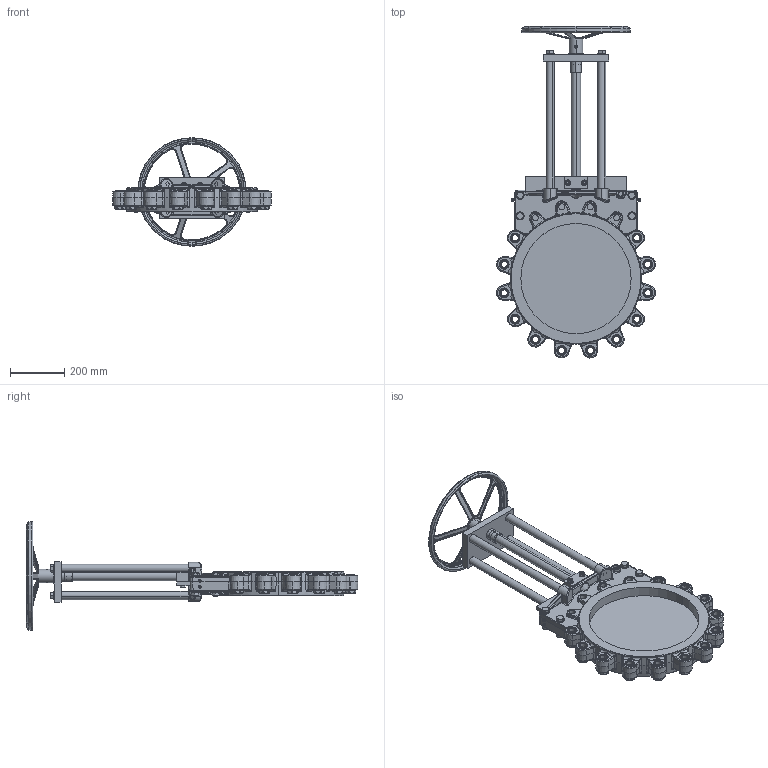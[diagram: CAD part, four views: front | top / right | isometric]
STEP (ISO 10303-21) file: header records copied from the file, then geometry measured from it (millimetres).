
FILE_DESCRIPTION (( 'STEP AP214' ), '1' );
FILE_NAME ('VLA DN 0400.STEP', '2022-09-20T06:58:55', ( '' ), ( '' ), 'SwSTEP 2.0', 'SolidWorks 2021', '' );
FILE_SCHEMA (( 'AUTOMOTIVE_DESIGN' ));
Length unit declared in the file: millimetre
Products named in the file (1): VLA DN 0400
Bounding box: 585.33 x 1223.08 x 400 mm (x, y, z)
Volume: 15173855.5 mm3; surface area: 1710152.2 mm2
Topology: 1 solids, 41 shells, 2751 faces, 6503 edges, 3809 vertices
Faces by surface type: plane 845, cylinder 706, bspline 512, cone 441, torus 234, sphere 13
Entity records: 133917 total; most frequent: CARTESIAN_POINT 44553, ORIENTED_EDGE 12720, DIRECTION 11930, EDGE_CURVE 6360, AXIS2_PLACEMENT_3D 4897, VERTEX_POINT 3809, EDGE_LOOP 2973, UNCERTAINTY_MEASURE_WITH_UNIT 2752
